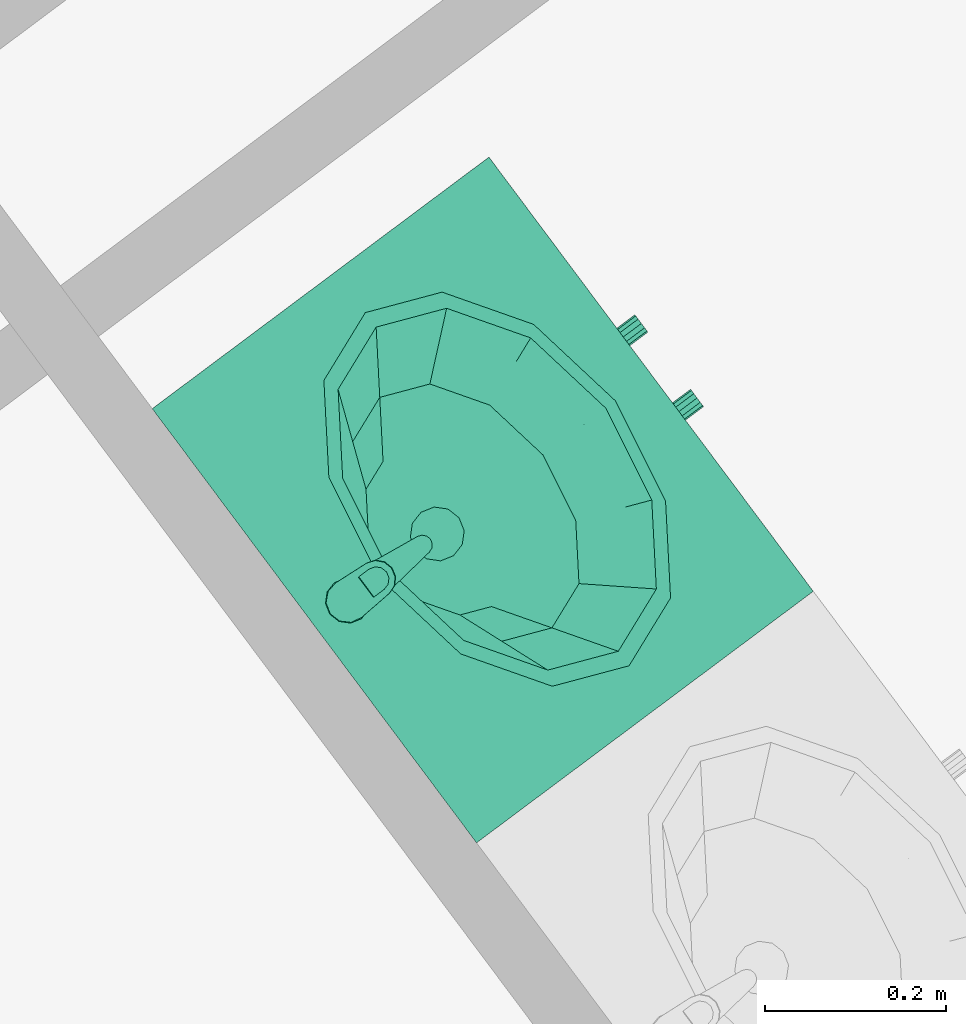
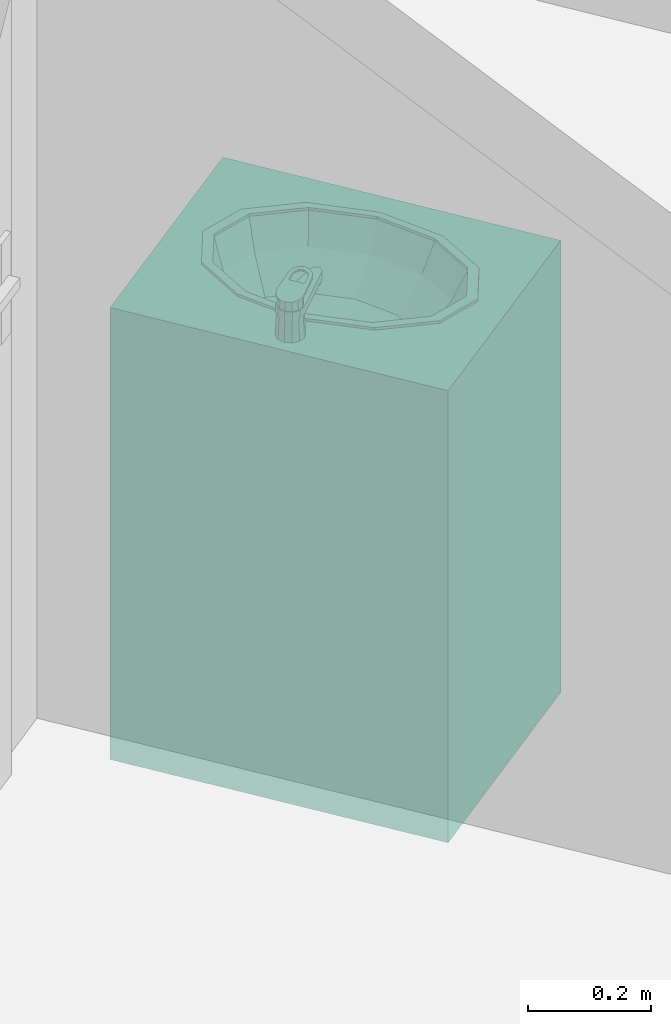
# One storey, part 87 of 121: 1 distribution element.
"""IFC2X3 building model written with IfcOpenShell, lengths in metres."""

from ifc_helpers import new_model, entity, si_unit, converted_unit, derived_unit, money_unit, direction, frame, origin_with_axes, place, context, subcontext, project, spatial, open_shell, faceted_brep, surface_model, source, transform, mapped, type_object, element, save


model = new_model("IFC2X3")

# Units and contexts
model_context = context("Model", 3, precision=1e-05, world=origin_with_axes(), true_north=direction((0.0, 1.0)))
body_context = subcontext(model_context, "Body", "Model", "MODEL_VIEW")
ifc_project = project(units=[si_unit("LENGTHUNIT", "METRE"), si_unit("AREAUNIT", "SQUARE_METRE"), si_unit("VOLUMEUNIT", "CUBIC_METRE"), converted_unit("PLANEANGLEUNIT", "DEGREE", entity("IfcPlaneAngleMeasure", 0.0174532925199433), si_unit("PLANEANGLEUNIT", "RADIAN"), dimensions=[0, 0, 0, 0, 0, 0, 0]), money_unit("CHF"), converted_unit("TIMEUNIT", "Year", entity("IfcTimeMeasure", 31557600.0), si_unit("TIMEUNIT", "SECOND"), dimensions=[0, 0, 1, 0, 0, 0, 0]), si_unit("MASSUNIT", "GRAM", prefix="KILO"), si_unit("THERMODYNAMICTEMPERATUREUNIT", "DEGREE_CELSIUS"), si_unit("LUMINOUSINTENSITYUNIT", "LUMEN"), si_unit("ENERGYUNIT", "JOULE", prefix="MEGA"), derived_unit("THERMALCONDUCTANCEUNIT", [(si_unit("POWERUNIT", "WATT"), 1), (si_unit("LENGTHUNIT", "METRE"), -1), (si_unit("THERMODYNAMICTEMPERATUREUNIT", "KELVIN"), -1)]), derived_unit("SPECIFICHEATCAPACITYUNIT", [(si_unit("ENERGYUNIT", "JOULE"), 1), (si_unit("MASSUNIT", "GRAM", prefix="KILO"), -1), (si_unit("THERMODYNAMICTEMPERATUREUNIT", "KELVIN"), -1)]), derived_unit("MASSDENSITYUNIT", [(si_unit("MASSUNIT", "GRAM", prefix="KILO"), 1), (si_unit("VOLUMEUNIT", "CUBIC_METRE"), -1)])], contexts=[model_context])

# Site, building, storey
site_placement = place(None, origin_with_axes())
site = spatial("IfcSite", under=ifc_project, at=site_placement, Name="Site", CompositionType="ELEMENT")
building_placement = place(site_placement, origin_with_axes())
building = spatial("IfcBuilding", under=site, at=building_placement, Name="Bâtiment", CompositionType="ELEMENT")
storey_placement = place(building_placement, frame((0.0, 0.0, 2.75), z_axis=(0.0, 0.0, 1.0), x_axis=(1.0, 0.0, 0.0)))
storey = spatial("IfcBuildingStorey", under=building, at=storey_placement, Name="Etage 1", CompositionType="ELEMENT", Elevation=2.75)

# Distribution element
distribution_element_type = type_object("IfcDistributionElementType", Name="Lavabo sur meuble 27")
shared_shape = source(origin_with_axes(), body_context, "Body", "SurfaceModel", [
    faceted_brep([(0.0, 0.0, 0.0), (0.0, 0.0, 0.1), (-0.6, 0.0, 0.1), (-0.6, 0.0, 0.0), (0.0, 0.4653441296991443, 0.0), (0.0, 0.4653441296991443, 0.1), (-0.6, 0.4653441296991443, 0.1), (-0.6, 0.4653441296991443, 0.0)], [[[0, 1, 2, 3]], [[4, 5, 1, 0]], [[1, 5, 6, 2]], [[3, 2, 6, 7]], [[0, 3, 7, 4]], [[7, 6, 5, 4]]]),
    faceted_brep([(0.0, 0.0, 0.1), (0.0, 0.0, 0.12), (-0.02, 0.0, 0.12), (-0.02, 0.0, 0.1), (0.0, 0.4653441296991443, 0.1), (0.0, 0.4653441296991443, 0.12), (-0.02, 0.4653441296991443, 0.12), (-0.58, 0.4653441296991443, 0.12), (-0.6, 0.4653441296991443, 0.12), (-0.6, 0.0, 0.12), (-0.58, 0.0, 0.12), (-0.58, 0.0, 0.1), (-0.6, 0.0, 0.1), (-0.6, 0.4653441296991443, 0.1), (-0.58, 0.4653441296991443, 0.1), (-0.02, 0.4653441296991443, 0.1)], [[[0, 1, 2, 3]], [[4, 5, 1, 0]], [[1, 5, 6, 7, 8, 9, 10, 2]], [[3, 2, 10, 11]], [[0, 3, 11, 12, 13, 14, 15, 4]], [[15, 6, 5, 4]], [[14, 7, 6, 15]], [[13, 8, 7, 14]], [[12, 9, 8, 13]], [[11, 10, 9, 12]]]),
    faceted_brep([(0.0, 0.0, 0.12), (0.0, 0.0, 0.85), (-0.02, 0.0, 0.85), (-0.02, 0.0, 0.12), (0.0, 0.4653441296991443, 0.12), (0.0, 0.4653441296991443, 0.85), (-0.6, 0.4653441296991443, 0.85), (-0.6, 0.0, 0.85), (-0.58, 0.0, 0.85), (-0.58, 0.4453441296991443, 0.85), (-0.02, 0.4453441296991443, 0.85), (-0.02, 0.4453441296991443, 0.12), (-0.58, 0.4453441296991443, 0.12), (-0.58, 0.0, 0.12), (-0.6, 0.0, 0.12), (-0.6, 0.4653441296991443, 0.12)], [[[0, 1, 2, 3]], [[4, 5, 1, 0]], [[1, 5, 6, 7, 8, 9, 10, 2]], [[3, 2, 10, 11]], [[0, 3, 11, 12, 13, 14, 15, 4]], [[15, 6, 5, 4]], [[14, 7, 6, 15]], [[13, 8, 7, 14]], [[12, 9, 8, 13]], [[11, 10, 9, 12]]]),
    faceted_brep([(-0.58, 0.0, 0.3233333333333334), (-0.58, 0.0, 0.3433333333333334), (-0.58, 0.4453441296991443, 0.3433333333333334), (-0.58, 0.4453441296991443, 0.3233333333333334), (-0.02, 0.0, 0.3233333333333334), (-0.02, 0.0, 0.3433333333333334), (-0.02, 0.4453441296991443, 0.3433333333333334), (-0.02, 0.4453441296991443, 0.3233333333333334)], [[[0, 1, 2, 3]], [[4, 5, 1, 0]], [[1, 5, 6, 2]], [[3, 2, 6, 7]], [[0, 3, 7, 4]], [[7, 6, 5, 4]]]),
    faceted_brep([(-0.58, 0.0, 0.5666666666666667), (-0.58, 0.0, 0.5866666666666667), (-0.58, 0.4453441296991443, 0.5866666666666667), (-0.58, 0.4453441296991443, 0.5666666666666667), (-0.02, 0.0, 0.5666666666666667), (-0.02, 0.0, 0.5866666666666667), (-0.02, 0.4453441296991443, 0.5866666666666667), (-0.02, 0.4453441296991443, 0.5666666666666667)], [[[0, 1, 2, 3]], [[4, 5, 1, 0]], [[1, 5, 6, 2]], [[3, 2, 6, 7]], [[0, 3, 7, 4]], [[7, 6, 5, 4]]]),
    faceted_brep([(0.0, 0.4653441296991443, 0.85), (0.0, 0.0, 0.85), (-0.6, 0.0, 0.85), (-0.6, 0.4653441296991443, 0.85), (-0.4124999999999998, 0.08276825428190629, 0.85), (-0.3, 0.06267206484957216, 0.85), (-0.1874999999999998, 0.08276825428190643, 0.85), (-0.1051442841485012, 0.1376720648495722, 0.85), (-0.07499999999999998, 0.2126720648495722, 0.85), (-0.1051442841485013, 0.2876720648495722, 0.85), (-0.1875000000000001, 0.342575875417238, 0.85), (-0.3, 0.3626720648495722, 0.85), (-0.4125, 0.3425758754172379, 0.85), (-0.4948557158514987, 0.2876720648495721, 0.85), (-0.525, 0.2126720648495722, 0.85), (-0.4948557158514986, 0.137672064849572, 0.85), (0.0, 0.4653441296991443, 0.9), (0.0, 0.0, 0.9), (-0.6, 0.0, 0.9), (-0.6, 0.4653441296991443, 0.9), (-0.3, 0.06267206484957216, 0.9), (-0.4124999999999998, 0.08276825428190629, 0.9), (-0.1874999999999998, 0.08276825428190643, 0.9), (-0.1051442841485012, 0.1376720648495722, 0.9), (-0.07499999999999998, 0.2126720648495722, 0.9), (-0.1051442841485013, 0.2876720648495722, 0.9), (-0.1875000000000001, 0.342575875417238, 0.9), (-0.3, 0.3626720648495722, 0.9), (-0.4125, 0.3425758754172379, 0.9), (-0.4948557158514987, 0.2876720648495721, 0.9), (-0.525, 0.2126720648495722, 0.9), (-0.4948557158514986, 0.137672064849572, 0.9)], [[[0, 1, 2, 3], [4, 5, 6, 7, 8, 9, 10, 11, 12, 13, 14, 15]], [[1, 0, 16, 17]], [[2, 1, 17, 18]], [[3, 2, 18, 19]], [[0, 3, 19, 16]], [[20, 5, 4, 21]], [[22, 6, 5, 20]], [[23, 7, 6, 22]], [[24, 8, 7, 23]], [[25, 9, 8, 24]], [[26, 10, 9, 25]], [[27, 11, 10, 26]], [[28, 12, 11, 27]], [[29, 13, 12, 28]], [[30, 14, 13, 29]], [[31, 15, 14, 30]], [[21, 4, 15, 31]], [[18, 17, 16, 19], [28, 27, 26, 25, 24, 23, 22, 20, 21, 31, 30, 29]]]),
    faceted_brep([(-0.544, 0.2126720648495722, 0.905), (-0.511310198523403, 0.2943684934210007, 0.905), (-0.511310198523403, 0.2943684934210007, 0.9), (-0.544, 0.2126720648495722, 0.9), (-0.5113101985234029, 0.1309756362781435, 0.905), (-0.4219999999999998, 0.07116969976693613, 0.905), (-0.3, 0.04927920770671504, 0.905), (-0.1779999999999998, 0.07116969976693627, 0.905), (-0.08868980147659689, 0.1309756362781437, 0.905), (-0.05599999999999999, 0.2126720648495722, 0.905), (-0.088689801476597, 0.2943684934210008, 0.905), (-0.178, 0.3541744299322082, 0.905), (-0.3, 0.3760649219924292, 0.905), (-0.422, 0.3541744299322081, 0.905), (-0.524, 0.2126720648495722, 0.905), (-0.4939896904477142, 0.2876720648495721, 0.905), (-0.412, 0.3425758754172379, 0.905), (-0.3, 0.3626720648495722, 0.905), (-0.1880000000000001, 0.342575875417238, 0.905), (-0.1060103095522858, 0.2876720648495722, 0.905), (-0.07599999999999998, 0.2126720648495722, 0.905), (-0.1060103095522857, 0.1376720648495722, 0.905), (-0.1879999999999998, 0.08276825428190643, 0.905), (-0.3, 0.06267206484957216, 0.905), (-0.4119999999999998, 0.08276825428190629, 0.905), (-0.4939896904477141, 0.137672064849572, 0.905), (-0.422, 0.3541744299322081, 0.9), (-0.3, 0.3760649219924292, 0.9), (-0.178, 0.3541744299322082, 0.9), (-0.088689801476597, 0.2943684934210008, 0.9), (-0.05599999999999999, 0.2126720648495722, 0.9), (-0.08868980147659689, 0.1309756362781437, 0.9), (-0.1779999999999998, 0.07116969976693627, 0.9), (-0.3, 0.04927920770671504, 0.9), (-0.4219999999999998, 0.07116969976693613, 0.9), (-0.5113101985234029, 0.1309756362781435, 0.9), (-0.524, 0.2126720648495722, 0.9), (-0.4939896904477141, 0.137672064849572, 0.9), (-0.4119999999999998, 0.08276825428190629, 0.9), (-0.3, 0.06267206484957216, 0.9), (-0.1879999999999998, 0.08276825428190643, 0.9), (-0.1060103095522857, 0.1376720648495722, 0.9), (-0.07599999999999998, 0.2126720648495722, 0.9), (-0.1060103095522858, 0.2876720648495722, 0.9), (-0.1880000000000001, 0.342575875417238, 0.9), (-0.3, 0.3626720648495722, 0.9), (-0.412, 0.3425758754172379, 0.9), (-0.4939896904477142, 0.2876720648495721, 0.9)], [[[0, 1, 2, 3]], [[0, 4, 5, 6, 7, 8, 9, 10, 11, 12, 13, 1], [14, 15, 16, 17, 18, 19, 20, 21, 22, 23, 24, 25]], [[1, 13, 26, 2]], [[3, 2, 26, 27, 28, 29, 30, 31, 32, 33, 34, 35], [36, 37, 38, 39, 40, 41, 42, 43, 44, 45, 46, 47]], [[4, 0, 3, 35]], [[5, 4, 35, 34]], [[6, 5, 34, 33]], [[7, 6, 33, 32]], [[8, 7, 32, 31]], [[9, 8, 31, 30]], [[10, 9, 30, 29]], [[11, 10, 29, 28]], [[12, 11, 28, 27]], [[13, 12, 27, 26]], [[15, 14, 36, 47]], [[16, 15, 47, 46]], [[17, 16, 46, 45]], [[18, 17, 45, 44]], [[19, 18, 44, 43]], [[20, 19, 43, 42]], [[21, 20, 42, 41]], [[22, 21, 41, 40]], [[23, 22, 40, 39]], [[24, 23, 39, 38]], [[25, 24, 38, 37]], [[14, 25, 37, 36]]]),
    surface_model("IfcShellBasedSurfaceModel", [(-0.3, 0.3626720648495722, 0.9), (-0.412, 0.342575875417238, 0.9), (-0.4008, 0.3445854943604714, 0.848), (-0.3, 0.3626720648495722, 0.848), (-0.4939896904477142, 0.2876720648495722, 0.9), (-0.4745907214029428, 0.2951720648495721, 0.848), (-0.1879999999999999, 0.3425758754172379, 0.9), (-0.1991999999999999, 0.3445854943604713, 0.848), (-0.524, 0.2126720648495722, 0.9), (-0.5016, 0.2276720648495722, 0.848), (-0.1060103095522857, 0.2876720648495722, 0.9), (-0.1254092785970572, 0.2951720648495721, 0.848), (-0.4939896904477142, 0.1376720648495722, 0.9), (-0.4745907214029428, 0.1601720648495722, 0.848), (-0.07599999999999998, 0.2126720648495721, 0.9), (-0.09839999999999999, 0.2276720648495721, 0.848), (-0.412, 0.08276825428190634, 0.9), (-0.4008, 0.1107586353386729, 0.848), (-0.1060103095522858, 0.1376720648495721, 0.9), (-0.1254092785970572, 0.1601720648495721, 0.848), (-0.3, 0.06267206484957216, 0.9), (-0.3, 0.09267206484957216, 0.848), (-0.1879999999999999, 0.08276825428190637, 0.9), (-0.1992, 0.110758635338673, 0.848)], [open_shell([[[0, 1, 2, 3]], [[1, 4, 5, 2]], [[6, 0, 3, 7]], [[4, 8, 9, 5]], [[10, 6, 7, 11]], [[8, 12, 13, 9]], [[14, 10, 11, 15]], [[12, 16, 17, 13]], [[18, 14, 15, 19]], [[16, 20, 21, 17]], [[22, 18, 19, 23]], [[20, 22, 23, 21]]])]),
    surface_model("IfcShellBasedSurfaceModel", [(-0.3, 0.3626720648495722, 0.848), (-0.4008, 0.3445854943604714, 0.848), (-0.379632, 0.3483836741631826, 0.7959999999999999), (-0.3, 0.3626720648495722, 0.7959999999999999), (-0.4745907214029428, 0.2951720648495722, 0.848), (-0.4379266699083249, 0.3093470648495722, 0.7959999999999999), (-0.1991999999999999, 0.3445854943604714, 0.848), (-0.2203679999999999, 0.3483836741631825, 0.7959999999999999), (-0.5016, 0.2276720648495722, 0.848), (-0.459264, 0.2560220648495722, 0.7959999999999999), (-0.1254092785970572, 0.2951720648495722, 0.848), (-0.1620733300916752, 0.3093470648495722, 0.7959999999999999), (-0.4745907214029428, 0.1601720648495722, 0.848), (-0.4379266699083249, 0.2026970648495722, 0.7959999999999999), (-0.09839999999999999, 0.2276720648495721, 0.848), (-0.140736, 0.2560220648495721, 0.7959999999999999), (-0.4008, 0.1107586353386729, 0.848), (-0.379632, 0.1636604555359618, 0.7959999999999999), (-0.1254092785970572, 0.1601720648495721, 0.848), (-0.1620733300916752, 0.2026970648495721, 0.7959999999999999), (-0.3, 0.09267206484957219, 0.848), (-0.3, 0.1493720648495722, 0.7959999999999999), (-0.1992, 0.110758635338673, 0.848), (-0.220368, 0.1636604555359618, 0.7959999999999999)], [open_shell([[[0, 1, 2, 3]], [[1, 4, 5, 2]], [[6, 0, 3, 7]], [[4, 8, 9, 5]], [[10, 6, 7, 11]], [[8, 12, 13, 9]], [[14, 10, 11, 15]], [[12, 16, 17, 13]], [[18, 14, 15, 19]], [[16, 20, 21, 17]], [[22, 18, 19, 23]], [[20, 22, 23, 21]]])]),
    surface_model("IfcShellBasedSurfaceModel", [(-0.3, 0.3626720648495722, 0.7959999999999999), (-0.379632, 0.3483836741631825, 0.7959999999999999), (-0.35016816, 0.3536703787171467, 0.7699999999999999), (-0.3, 0.3626720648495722, 0.7699999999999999), (-0.4379266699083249, 0.3093470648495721, 0.7959999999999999), (-0.3868938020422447, 0.3290773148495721, 0.7699999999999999), (-0.2203679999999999, 0.3483836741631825, 0.7959999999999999), (-0.2498318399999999, 0.3536703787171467, 0.7699999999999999), (-0.459264, 0.2560220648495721, 0.7959999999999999), (-0.40033632, 0.2954825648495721, 0.7699999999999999), (-0.1620733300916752, 0.3093470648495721, 0.7959999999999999), (-0.2131061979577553, 0.3290773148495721, 0.7699999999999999), (-0.4379266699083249, 0.2026970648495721, 0.7959999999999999), (-0.3868938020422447, 0.2618878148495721, 0.7699999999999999), (-0.140736, 0.2560220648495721, 0.7959999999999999), (-0.19966368, 0.2954825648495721, 0.7699999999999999), (-0.379632, 0.1636604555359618, 0.7959999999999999), (-0.35016816, 0.2372947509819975, 0.7699999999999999), (-0.1620733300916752, 0.2026970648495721, 0.7959999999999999), (-0.2131061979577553, 0.2618878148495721, 0.7699999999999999), (-0.3, 0.1493720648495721, 0.7959999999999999), (-0.3, 0.2282930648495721, 0.7699999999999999), (-0.220368, 0.1636604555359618, 0.7959999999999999), (-0.24983184, 0.2372947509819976, 0.7699999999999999)], [open_shell([[[0, 1, 2, 3]], [[1, 4, 5, 2]], [[6, 0, 3, 7]], [[4, 8, 9, 5]], [[10, 6, 7, 11]], [[8, 12, 13, 9]], [[14, 10, 11, 15]], [[12, 16, 17, 13]], [[18, 14, 15, 19]], [[16, 20, 21, 17]], [[22, 18, 19, 23]], [[20, 22, 23, 21]]])]),
    surface_model("IfcShellBasedSurfaceModel", [(-0.3, 0.3626720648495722, 0.7699999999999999), (-0.35016816, 0.3536703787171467, 0.7699999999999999), (-0.315, 0.3214633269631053, 0.7629999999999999), (-0.3259807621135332, 0.3104825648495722, 0.7629999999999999), (-0.3, 0.3254825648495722, 0.7629999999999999), (-0.3868938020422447, 0.3290773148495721, 0.7699999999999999), (-0.2498318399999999, 0.3536703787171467, 0.7699999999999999), (-0.33, 0.2954825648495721, 0.7629999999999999), (-0.285, 0.3214633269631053, 0.7629999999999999), (-0.40033632, 0.2954825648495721, 0.7699999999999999), (-0.2131061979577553, 0.3290773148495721, 0.7699999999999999), (-0.3259807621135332, 0.2804825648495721, 0.7629999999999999), (-0.2740192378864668, 0.3104825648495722, 0.7629999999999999), (-0.3868938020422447, 0.2618878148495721, 0.7699999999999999), (-0.19966368, 0.2954825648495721, 0.7699999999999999), (-0.315, 0.269501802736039, 0.7629999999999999), (-0.27, 0.2954825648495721, 0.7629999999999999), (-0.35016816, 0.2372947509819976, 0.7699999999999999), (-0.2131061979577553, 0.2618878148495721, 0.7699999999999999), (-0.3, 0.2654825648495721, 0.7629999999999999), (-0.2740192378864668, 0.2804825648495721, 0.7629999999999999), (-0.3, 0.2282930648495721, 0.7699999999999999), (-0.24983184, 0.2372947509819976, 0.7699999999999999), (-0.285, 0.269501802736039, 0.7629999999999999)], [open_shell([[[0, 1, 2]], [[1, 3, 2]], [[0, 2, 4]], [[1, 5, 3]], [[6, 0, 4]], [[5, 7, 3]], [[6, 4, 8]], [[5, 9, 7]], [[10, 6, 8]], [[9, 11, 7]], [[10, 8, 12]], [[9, 13, 11]], [[14, 10, 12]], [[13, 15, 11]], [[14, 12, 16]], [[13, 17, 15]], [[18, 14, 16]], [[17, 19, 15]], [[18, 16, 20]], [[17, 21, 19]], [[22, 18, 20]], [[21, 23, 19]], [[22, 20, 23]], [[21, 22, 23]]])]),
    surface_model("IfcShellBasedSurfaceModel", [(-0.33, 0.2954825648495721, 0.763), (-0.3259807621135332, 0.3104825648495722, 0.763), (-0.3259807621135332, 0.3104825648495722, 0.758), (-0.33, 0.2954825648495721, 0.758), (-0.315, 0.3214633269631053, 0.763), (-0.315, 0.3214633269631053, 0.758), (-0.3, 0.3254825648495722, 0.758), (-0.285, 0.3214633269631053, 0.758), (-0.2740192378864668, 0.3104825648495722, 0.758), (-0.27, 0.2954825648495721, 0.758), (-0.2740192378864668, 0.2804825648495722, 0.758), (-0.285, 0.269501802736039, 0.758), (-0.3, 0.2654825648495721, 0.758), (-0.3149999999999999, 0.269501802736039, 0.758), (-0.3259807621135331, 0.2804825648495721, 0.758), (-0.3259807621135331, 0.2804825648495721, 0.763), (-0.3, 0.3254825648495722, 0.763), (-0.285, 0.3214633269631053, 0.763), (-0.2740192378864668, 0.3104825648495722, 0.763), (-0.27, 0.2954825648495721, 0.763), (-0.2740192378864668, 0.2804825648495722, 0.763), (-0.285, 0.269501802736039, 0.763), (-0.3, 0.2654825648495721, 0.763), (-0.3149999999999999, 0.269501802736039, 0.763)], [open_shell([[[0, 1, 2, 3]], [[1, 4, 5, 2]], [[3, 2, 5, 6, 7, 8, 9, 10, 11, 12, 13, 14]], [[15, 0, 3, 14]], [[4, 16, 6, 5]], [[16, 17, 7, 6]], [[17, 18, 8, 7]], [[18, 19, 9, 8]], [[19, 20, 10, 9]], [[20, 21, 11, 10]], [[21, 22, 12, 11]], [[22, 23, 13, 12]], [[23, 15, 14, 13]]])]),
    faceted_brep([(-0.3125, 0.4406587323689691, 0.9), (-0.310587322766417, 0.4373458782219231, 0.976507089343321), (-0.3, 0.4402100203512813, 0.9759615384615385), (-0.3, 0.4440080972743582, 0.9), (-0.3216506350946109, 0.4315080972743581, 0.9), (-0.3182735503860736, 0.4295583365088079, 0.9779904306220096), (-0.321, 0.4190080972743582, 0.98), (-0.3181003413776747, 0.4085578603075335, 0.9819905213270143), (-0.3104141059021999, 0.400970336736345, 0.9834357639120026), (-0.3, 0.3982062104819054, 0.9839622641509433), (-0.2895858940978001, 0.400970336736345, 0.9834357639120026), (-0.2818996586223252, 0.4085578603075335, 0.9819905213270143), (-0.279, 0.4190080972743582, 0.98), (-0.2817264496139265, 0.4295583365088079, 0.9779904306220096), (-0.289412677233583, 0.4373458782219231, 0.976507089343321), (-0.2875, 0.4406587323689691, 0.9), (-0.278349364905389, 0.4315080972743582, 0.9), (-0.275, 0.4190080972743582, 0.9), (-0.278349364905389, 0.4065080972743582, 0.9), (-0.2875, 0.3973574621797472, 0.9), (-0.3, 0.3940080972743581, 0.9), (-0.3125, 0.3973574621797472, 0.9), (-0.3216506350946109, 0.4065080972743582, 0.9), (-0.325, 0.4190080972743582, 0.9)], [[[0, 1, 2, 3]], [[4, 5, 1, 0]], [[1, 5, 6, 7, 8, 9, 10, 11, 12, 13, 14, 2]], [[3, 2, 14, 15]], [[0, 3, 15, 16, 17, 18, 19, 20, 21, 22, 23, 4]], [[23, 6, 5, 4]], [[22, 7, 6, 23]], [[21, 8, 7, 22]], [[20, 9, 8, 21]], [[19, 10, 9, 20]], [[18, 11, 10, 19]], [[17, 12, 11, 18]], [[16, 13, 12, 17]], [[15, 14, 13, 16]]]),
    faceted_brep([(-0.309, 0.3160080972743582, 0.935), (-0.309, 0.3160080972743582, 0.9450000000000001), (-0.3077942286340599, 0.3205080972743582, 0.9450000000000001), (-0.3077942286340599, 0.3205080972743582, 0.935), (-0.3077942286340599, 0.3115080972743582, 0.935), (-0.3077942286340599, 0.3115080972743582, 0.9450000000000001), (-0.3045, 0.3082138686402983, 0.9450000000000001), (-0.3, 0.3070080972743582, 0.9450000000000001), (-0.2955, 0.3082138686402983, 0.9450000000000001), (-0.2922057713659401, 0.3115080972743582, 0.9450000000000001), (-0.291, 0.3160080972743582, 0.9450000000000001), (-0.2922057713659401, 0.3205080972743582, 0.9450000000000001), (-0.2955, 0.3238023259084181, 0.9450000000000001), (-0.3, 0.3250080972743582, 0.9450000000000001), (-0.3045, 0.3238023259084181, 0.9450000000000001), (-0.3045, 0.3238023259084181, 0.935), (-0.3, 0.3250080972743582, 0.935), (-0.2955, 0.3238023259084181, 0.935), (-0.2922057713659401, 0.3205080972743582, 0.935), (-0.291, 0.3160080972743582, 0.935), (-0.2922057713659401, 0.3115080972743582, 0.935), (-0.2955, 0.3082138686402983, 0.935), (-0.3, 0.3070080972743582, 0.935), (-0.3045, 0.3082138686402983, 0.935)], [[[0, 1, 2, 3]], [[4, 5, 1, 0]], [[1, 5, 6, 7, 8, 9, 10, 11, 12, 13, 14, 2]], [[3, 2, 14, 15]], [[0, 3, 15, 16, 17, 18, 19, 20, 21, 22, 23, 4]], [[23, 6, 5, 4]], [[22, 7, 6, 23]], [[21, 8, 7, 22]], [[20, 9, 8, 21]], [[19, 10, 9, 20]], [[18, 11, 10, 19]], [[17, 12, 11, 18]], [[16, 13, 12, 17]], [[15, 14, 13, 16]]]),
    faceted_brep([(-0.2871282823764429, 0.439264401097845, 0.9600000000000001), (-0.300000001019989, 0.44300807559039, 0.9600000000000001), (-0.3128717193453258, 0.4392644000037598, 0.9600000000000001), (-0.3217278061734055, 0.4292013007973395, 0.9600000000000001), (-0.3238053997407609, 0.4159581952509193, 0.9600000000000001), (-0.310912, 0.3146197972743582, 0.9600000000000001), (-0.309028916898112, 0.3097249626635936, 0.9600000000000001), (-0.3050933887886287, 0.3062584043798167, 0.9600000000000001), (-0.300000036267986, 0.305008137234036, 0.9600000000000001), (-0.2949066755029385, 0.3062583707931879, 0.9600000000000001), (-0.2909711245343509, 0.3097249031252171, 0.9600000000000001), (-0.2890880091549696, 0.3146197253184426, 0.9600000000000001), (-0.2761946, 0.4159581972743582, 0.9600000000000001), (-0.2782721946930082, 0.4292013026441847, 0.9600000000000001), (-0.311, 0.4380606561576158, 0.9600000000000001), (-0.3, 0.4410080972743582, 0.9600000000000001), (-0.289, 0.4380606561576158, 0.9600000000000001), (-0.2809474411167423, 0.4300080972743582, 0.9600000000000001), (-0.278, 0.4190080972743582, 0.9600000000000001), (-0.2809474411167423, 0.4080080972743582, 0.9600000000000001), (-0.289, 0.3999555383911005, 0.9600000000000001), (-0.3, 0.3970080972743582, 0.9600000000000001), (-0.3109999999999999, 0.3999555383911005, 0.9600000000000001), (-0.3190525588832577, 0.4080080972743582, 0.9600000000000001), (-0.322, 0.4190080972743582, 0.9600000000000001), (-0.3190525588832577, 0.4300080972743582, 0.9600000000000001), (-0.2871282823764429, 0.439264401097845, 0.9450000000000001), (-0.300000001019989, 0.44300807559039, 0.9450000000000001), (-0.3128717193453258, 0.4392644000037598, 0.9450000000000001), (-0.3217278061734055, 0.4292013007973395, 0.9450000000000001), (-0.3238053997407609, 0.4159581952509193, 0.9450000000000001), (-0.310912, 0.3146197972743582, 0.9450000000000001), (-0.309028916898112, 0.3097249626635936, 0.9450000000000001), (-0.3050933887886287, 0.3062584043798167, 0.9450000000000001), (-0.300000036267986, 0.305008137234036, 0.9450000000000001), (-0.2949066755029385, 0.3062583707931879, 0.9450000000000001), (-0.2909711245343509, 0.3097249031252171, 0.9450000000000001), (-0.2890880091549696, 0.3146197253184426, 0.9450000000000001), (-0.2761946, 0.4159581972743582, 0.9450000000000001), (-0.2782721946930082, 0.4292013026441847, 0.9450000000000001), (-0.3, 0.4417580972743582, 0.9450000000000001), (-0.311375, 0.4387101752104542, 0.9450000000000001), (-0.288625, 0.4387101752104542, 0.9450000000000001), (-0.280297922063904, 0.4303830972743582, 0.9450000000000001), (-0.2772499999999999, 0.4190080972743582, 0.9450000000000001), (-0.280297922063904, 0.4076330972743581, 0.9450000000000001), (-0.288625, 0.3993060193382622, 0.9450000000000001), (-0.3, 0.3962580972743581, 0.9450000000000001), (-0.311375, 0.3993060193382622, 0.9450000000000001), (-0.319702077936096, 0.4076330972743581, 0.9450000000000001), (-0.32275, 0.4190080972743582, 0.9450000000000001), (-0.319702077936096, 0.4303830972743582, 0.9450000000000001)], [[[0, 1, 2, 3, 4, 5, 6, 7, 8, 9, 10, 11, 12, 13], [14, 15, 16, 17, 18, 19, 20, 21, 22, 23, 24, 25]], [[26, 27, 1, 0]], [[27, 28, 2, 1]], [[28, 29, 3, 2]], [[29, 30, 4, 3]], [[30, 31, 5, 4]], [[31, 32, 6, 5]], [[32, 33, 7, 6]], [[33, 34, 8, 7]], [[34, 35, 9, 8]], [[35, 36, 10, 9]], [[36, 37, 11, 10]], [[37, 38, 12, 11]], [[38, 39, 13, 12]], [[39, 26, 0, 13]], [[40, 15, 14, 41]], [[42, 16, 15, 40]], [[16, 42, 43, 17]], [[17, 43, 44, 18]], [[18, 44, 45, 19]], [[19, 45, 46, 20]], [[20, 46, 47, 21]], [[48, 22, 21, 47]], [[49, 23, 22, 48]], [[50, 24, 23, 49]], [[51, 25, 24, 50]], [[41, 14, 25, 51]], [[34, 33, 32, 31, 30, 29, 28, 27, 26, 39, 38, 37, 36, 35], [48, 47, 46, 45, 44, 43, 42, 40, 41, 51, 50, 49]]]),
    faceted_brep([(-0.323893, 0.4173155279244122, 0.9803223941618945), (-0.323893, 0.4180639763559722, 0.9842517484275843), (-0.3212964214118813, 0.4305312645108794, 0.9818770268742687), (-0.3212964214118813, 0.4297828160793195, 0.9779476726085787), (-0.3209459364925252, 0.377171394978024, 0.9879688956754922), (-0.3209459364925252, 0.377919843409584, 0.9918982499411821), (-0.317663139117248, 0.3682421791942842, 0.9937416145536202), (-0.3100614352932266, 0.3612927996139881, 0.995065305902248), (-0.2999995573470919, 0.3587709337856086, 0.9955456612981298), (-0.289937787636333, 0.3612932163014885, 0.9950652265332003), (-0.2823363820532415, 0.3682429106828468, 0.9937414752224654), (-0.279054, 0.3779207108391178, 0.991898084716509), (-0.2761069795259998, 0.4180642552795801, 0.9842516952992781), (-0.2787037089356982, 0.4305315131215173, 0.9818769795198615), (-0.2875283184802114, 0.4398477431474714, 0.9801024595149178), (-0.3000001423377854, 0.4432885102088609, 0.9794470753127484), (-0.3124719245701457, 0.4398475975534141, 0.9801024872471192), (-0.314, 0.3942157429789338, 0.9887942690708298), (-0.286, 0.3942157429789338, 0.9887942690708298), (-0.286, 0.3794001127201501, 0.9916162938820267), (-0.2878756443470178, 0.3725237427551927, 0.9929260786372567), (-0.293, 0.3674898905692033, 0.9938849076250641), (-0.3, 0.3656473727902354, 0.9942358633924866), (-0.307, 0.3674898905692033, 0.9938849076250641), (-0.3121243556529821, 0.3725237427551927, 0.9929260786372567), (-0.314, 0.3794001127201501, 0.9916162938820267), (-0.3124719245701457, 0.4390991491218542, 0.9761731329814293), (-0.3000001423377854, 0.4425400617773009, 0.9755177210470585), (-0.2875283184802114, 0.4390992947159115, 0.976173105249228), (-0.2787037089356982, 0.4297830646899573, 0.9779476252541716), (-0.2761069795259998, 0.4173158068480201, 0.9803223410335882), (-0.279054, 0.3771722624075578, 0.9879687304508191), (-0.2823363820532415, 0.3674944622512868, 0.9898121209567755), (-0.289937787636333, 0.3605447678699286, 0.9911358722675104), (-0.2999995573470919, 0.3580224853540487, 0.9916163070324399), (-0.3100614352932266, 0.3605443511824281, 0.9911359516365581), (-0.317663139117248, 0.3674937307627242, 0.9898122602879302), (-0.314, 0.3934672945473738, 0.9848649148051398), (-0.314, 0.37865166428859, 0.9876869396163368), (-0.3121243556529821, 0.3717752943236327, 0.9889967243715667), (-0.307, 0.3667414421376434, 0.9899555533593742), (-0.3, 0.3648989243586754, 0.9903065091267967), (-0.293, 0.3667414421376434, 0.9899555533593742), (-0.2878756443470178, 0.3717752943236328, 0.9889967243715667), (-0.286, 0.37865166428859, 0.9876869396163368), (-0.286, 0.3934672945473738, 0.9848649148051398)], [[[0, 1, 2, 3]], [[4, 5, 1, 0]], [[1, 5, 6, 7, 8, 9, 10, 11, 12, 13, 14, 15, 16, 2], [17, 18, 19, 20, 21, 22, 23, 24, 25]], [[3, 2, 16, 26]], [[0, 3, 26, 27, 28, 29, 30, 31, 32, 33, 34, 35, 36, 4], [37, 38, 39, 40, 41, 42, 43, 44, 45]], [[36, 6, 5, 4]], [[35, 7, 6, 36]], [[34, 8, 7, 35]], [[33, 9, 8, 34]], [[32, 10, 9, 33]], [[31, 11, 10, 32]], [[30, 12, 11, 31]], [[29, 13, 12, 30]], [[28, 14, 13, 29]], [[27, 15, 14, 28]], [[26, 16, 15, 27]], [[45, 18, 17, 37]], [[44, 19, 18, 45]], [[43, 20, 19, 44]], [[42, 21, 20, 43]], [[41, 22, 21, 42]], [[40, 23, 22, 41]], [[39, 24, 23, 40]], [[38, 25, 24, 39]], [[37, 17, 25, 38]]]),
    surface_model("IfcShellBasedSurfaceModel", [(-0.001500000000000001, 0.0, 0.1015), (-0.2985, 0.0, 0.1015), (-0.2985, 0.0, 0.8485), (-0.001500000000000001, 0.0, 0.8485)], [open_shell([[[0, 1, 2, 3]]])]),
    faceted_brep([(-0.2588923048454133, 0.0, 0.7855), (-0.2605, 0.0, 0.7915), (-0.2588923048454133, 0.0, 0.7975), (-0.2545, 0.0, 0.8018923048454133), (-0.2485, 0.0, 0.8035), (-0.2425, 0.0, 0.8018923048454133), (-0.2381076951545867, 0.0, 0.7975), (-0.2365, 0.0, 0.7915), (-0.2381076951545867, 0.0, 0.7855), (-0.2425, 0.0, 0.7811076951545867), (-0.2485, 0.0, 0.7795), (-0.2545, 0.0, 0.7811076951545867), (-0.2588923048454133, -0.025, 0.7855), (-0.2605, -0.025, 0.7915), (-0.2588923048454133, -0.025, 0.7975), (-0.2545, -0.025, 0.8018923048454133), (-0.2485, -0.025, 0.8035), (-0.2425, -0.025, 0.8018923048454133), (-0.2381076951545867, -0.025, 0.7975), (-0.2365, -0.025, 0.7915), (-0.2381076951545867, -0.025, 0.7855), (-0.2425, -0.025, 0.7811076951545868), (-0.2485, -0.025, 0.7795), (-0.2545, -0.025, 0.7811076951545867)], [[[0, 1, 2, 3, 4, 5, 6, 7, 8, 9, 10, 11]], [[0, 12, 13, 1]], [[1, 13, 14, 2]], [[2, 14, 15, 3]], [[3, 15, 16, 4]], [[4, 16, 17, 5]], [[5, 17, 18, 6]], [[6, 18, 19, 7]], [[7, 19, 20, 8]], [[8, 20, 21, 9]], [[9, 21, 22, 10]], [[10, 22, 23, 11]], [[11, 23, 12, 0]], [[12, 23, 22, 21, 20, 19, 18, 17, 16, 15, 14, 13]]]),
    surface_model("IfcShellBasedSurfaceModel", [(-0.5985, 0.0, 0.1015), (-0.5985, 0.0, 0.8485), (-0.3015000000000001, 0.0, 0.8485), (-0.3015000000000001, 0.0, 0.1015)], [open_shell([[[0, 1, 2, 3]]])]),
    faceted_brep([(-0.3411076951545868, 0.0, 0.7855), (-0.3455, 0.0, 0.7811076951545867), (-0.3515, 0.0, 0.7795), (-0.3575, 0.0, 0.7811076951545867), (-0.3618923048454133, 0.0, 0.7855), (-0.3635, 0.0, 0.7915), (-0.3618923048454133, 0.0, 0.7975), (-0.3575, 0.0, 0.8018923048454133), (-0.3515, 0.0, 0.8035), (-0.3455, 0.0, 0.8018923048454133), (-0.3411076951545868, 0.0, 0.7975), (-0.3395, 0.0, 0.7915), (-0.3411076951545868, -0.025, 0.7855), (-0.3455, -0.025, 0.7811076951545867), (-0.3515, -0.025, 0.7795), (-0.3575, -0.025, 0.7811076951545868), (-0.3618923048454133, -0.025, 0.7855), (-0.3635, -0.025, 0.7915), (-0.3618923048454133, -0.025, 0.7975), (-0.3575, -0.025, 0.8018923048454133), (-0.3515, -0.025, 0.8035), (-0.3455, -0.025, 0.8018923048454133), (-0.3411076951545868, -0.025, 0.7975), (-0.3395, -0.025, 0.7915)], [[[0, 1, 2, 3, 4, 5, 6, 7, 8, 9, 10, 11]], [[1, 0, 12, 13]], [[2, 1, 13, 14]], [[3, 2, 14, 15]], [[4, 3, 15, 16]], [[5, 4, 16, 17]], [[6, 5, 17, 18]], [[7, 6, 18, 19]], [[8, 7, 19, 20]], [[9, 8, 20, 21]], [[10, 9, 21, 22]], [[11, 10, 22, 23]], [[0, 11, 23, 12]], [[12, 23, 22, 21, 20, 19, 18, 17, 16, 15, 14, 13]]]),
])
distribution_element_placement = place(storey_placement, frame((9539.363290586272, -1078.749175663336, 57.59999999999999), z_axis=(0.0, 0.0, 1.0), x_axis=(-0.5984464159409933, 0.8011628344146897, 0.0)))
element("IfcDistributionElement", 1, at=distribution_element_placement, inside=storey, type_object=distribution_element_type, Name="Obj.-004", context=body_context, shape_type="MappedRepresentation", body=[
    mapped(shared_shape, transform((0.0, 0.0, 0.0))),
])

save(model, "model.ifc")
